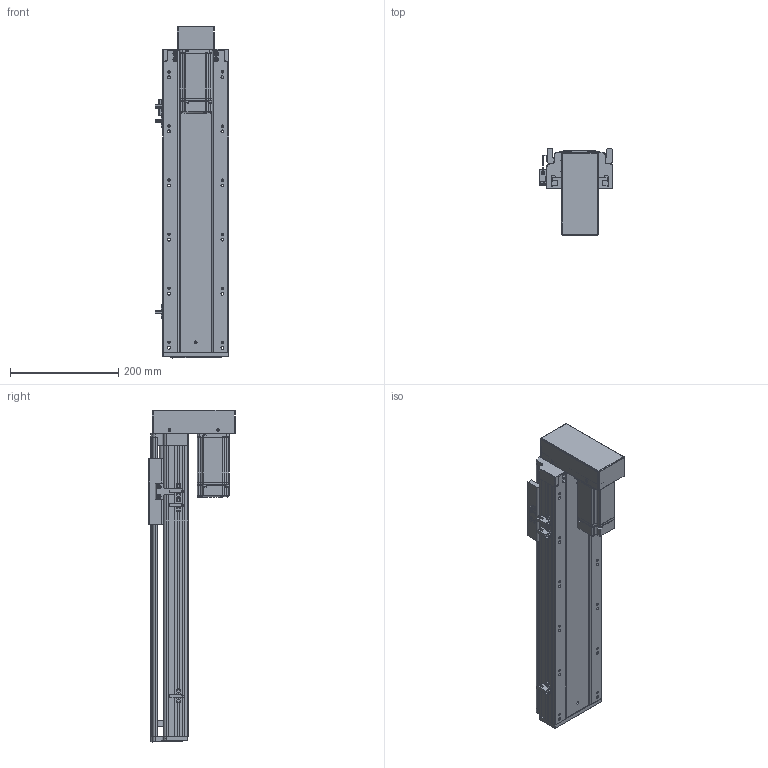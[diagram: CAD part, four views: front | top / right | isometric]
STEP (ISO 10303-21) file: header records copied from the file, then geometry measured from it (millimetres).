
FILE_DESCRIPTION (( 'STEP AP203' ), '1' );
FILE_NAME ('RY120-L2020-300-BK.SLDASM_350.step', '2021-03-12T06:57:20', ( '盈信电脑' ), ( '东莞市道滘镇水果街19号' ), 'SwSTEP 2.0', 'SolidWorks 2012', '' );
FILE_SCHEMA (( 'CONFIG_CONTROL_DESIGN' ));
Length unit declared in the file: millimetre
Products named in the file (15): RY120-L2020-300-BK.SLDASM_350; RY120狟殏萇儂欶; RY120下折折电机安装板; RY120-400W萇儂傷-BK; 侂狟400W侜督萇儂; RY120转拆电端丝杆支撑座(20丝杆，7002轴承); RY120外置感应片(140共用）; 15; RY120綴裔啣; 滅袉蝶18-10; 滅袉蝶18-24; 覜茼ん672; RY120-300-BK蛌殏倰第菁釱_350; RY120-300-BK蛌殏倰第奻裔啣_350; RY120臏賑輸(20蹟譫)
Assembly tree (17 placements, depth 4):
  RY120-L2020-300-BK.SLDASM_350
    RY120-300-BK蛌殏倰第菁釱_350
    RY120-300-BK蛌殏倰第奻裔啣_350
    RY120臏賑輸(20蹟譫)
    RY120綴裔啣
    覜茼ん672  x3
    滅袉蝶18-10
    滅袉蝶18-24  x2
    RY120外置感应片(140共用）
    RY120转拆电端丝杆支撑座(20丝杆，7002轴承)
    RY120-400W萇儂傷-BK
      侂狟400W侜督萇儂
        15
      RY120狟殏萇儂欶
      RY120下折折电机安装板
Bounding box: 135.7 x 159.5 x 614 mm (x, y, z)
Volume: 2083236.3 mm3; surface area: 733202.4 mm2
Topology: 16 solids, 16 shells, 2342 faces, 6423 edges, 4124 vertices
Faces by surface type: plane 1206, cylinder 842, cone 189, bspline 105
Entity records: 77325 total; most frequent: CARTESIAN_POINT 21595, ORIENTED_EDGE 11598, DIRECTION 10719, EDGE_CURVE 5799, VERTEX_POINT 3792, VECTOR 3653, LINE 3653, AXIS2_PLACEMENT_3D 3533
